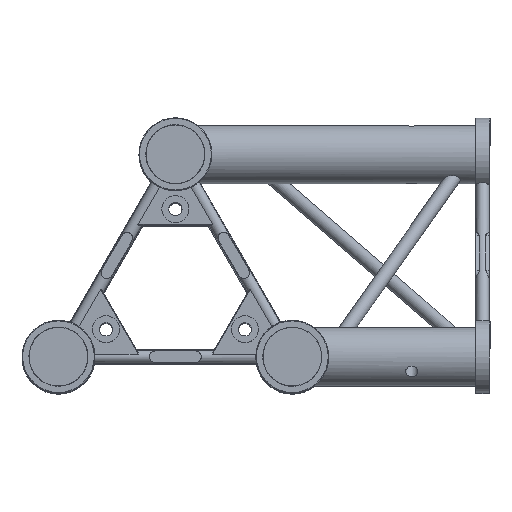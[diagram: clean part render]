
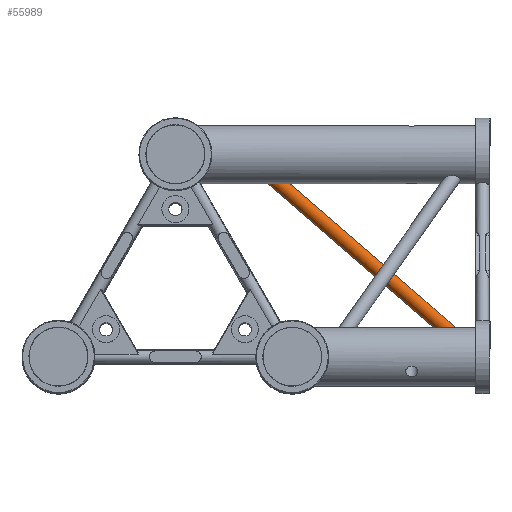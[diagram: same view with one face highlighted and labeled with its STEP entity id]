
A CAD part, top view. The second image highlights one B-rep face of the part: STEP entity #55989.
In plain terms, the highlighted cylindrical face has radius 6.35 mm (diameter 12.7 mm), a full revolution.
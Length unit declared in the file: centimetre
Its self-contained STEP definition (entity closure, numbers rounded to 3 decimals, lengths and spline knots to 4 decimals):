
#1488=CYLINDRICAL_SURFACE('',#57865,0.635);
#1922=FACE_BOUND('',#11211,.T.);
#4941=B_SPLINE_CURVE_WITH_KNOTS('',3,(#103762,#103763,#103764,#103765,#103766,
#103767,#103768,#103769,#103770,#103771,#103772,#103773,#103774,#103775,
#103776,#103777,#103778,#103779,#103780,#103781,#103782,#103783,#103784,
#103785,#103786,#103787,#103788,#103789,#103790,#103791,#103792,#103793,
#103794,#103795,#103796,#103797,#103798,#103799),.UNSPECIFIED.,.T.,.F.,
(4,2,2,2,2,2,2,2,2,2,2,2,2,2,2,2,2,2,4),(0.,0.3721,0.7441,
0.9861,1.107,1.228,1.3489,1.4699,
1.7118,2.0839,2.4559,2.7599,3.0639,
3.3153,3.5666,3.8179,4.0693,4.3733,
4.6773),.UNSPECIFIED.);
#4942=B_SPLINE_CURVE_WITH_KNOTS('',3,(#103801,#103802,#103803,#103804,#103805,
#103806,#103807,#103808,#103809,#103810,#103811,#103812,#103813,#103814,
#103815,#103816,#103817,#103818,#103819,#103820,#103821,#103822,#103823,
#103824,#103825,#103826,#103827,#103828,#103829,#103830,#103831,#103832,
#103833,#103834,#103835,#103836,#103837,#103838),.UNSPECIFIED.,.T.,.F.,
(4,2,2,2,2,2,2,2,2,2,2,2,2,2,2,2,2,2,4),(0.,0.3375,0.6751,
0.9531,1.0921,1.2311,1.3701,1.5091,
1.7871,2.1246,2.4622,2.7839,3.1056,
3.3392,3.5728,3.8064,4.04,4.3618,
4.6835),.UNSPECIFIED.);
#7874=FACE_OUTER_BOUND('',#11210,.T.);
#11210=EDGE_LOOP('',(#48631));
#11211=EDGE_LOOP('',(#48632));
#25685=VERTEX_POINT('',#103761);
#25686=VERTEX_POINT('',#103800);
#33350=EDGE_CURVE('',#25685,#25685,#4941,.T.);
#33351=EDGE_CURVE('',#25686,#25686,#4942,.T.);
#48631=ORIENTED_EDGE('',*,*,#33350,.F.);
#48632=ORIENTED_EDGE('',*,*,#33351,.F.);
#55989=ADVANCED_FACE('',(#7874,#1922),#1488,.T.);
#57865=AXIS2_PLACEMENT_3D('',#103760,#66242,#66243);
#66242=DIRECTION('center_axis',(-0.707,0.612,0.354));
#66243=DIRECTION('ref_axis',(-0.707,-0.612,-0.354));
#103760=CARTESIAN_POINT('Origin',(24.291,-15.7695,-36.4145));
#103761=CARTESIAN_POINT('',(7.7239,-2.1997,-28.58));
#103762=CARTESIAN_POINT('Ctrl Pts',(8.5413,-2.4474,
-27.9897));
#103763=CARTESIAN_POINT('Ctrl Pts',(8.6653,-2.4474,-27.9897));
#103764=CARTESIAN_POINT('Ctrl Pts',(8.7992,-2.4424,
-28.0085));
#103765=CARTESIAN_POINT('Ctrl Pts',(9.0539,-2.4197,
-28.0833));
#103766=CARTESIAN_POINT('Ctrl Pts',(9.1749,-2.4021,-28.1389));
#103767=CARTESIAN_POINT('Ctrl Pts',(9.339,-2.3588,
-28.2533));
#103768=CARTESIAN_POINT('Ctrl Pts',(9.4024,-2.3358,
-28.3103));
#103769=CARTESIAN_POINT('Ctrl Pts',(9.4705,-2.2914,
-28.4066));
#103770=CARTESIAN_POINT('Ctrl Pts',(9.4887,-2.2749,
-28.4404));
#103771=CARTESIAN_POINT('Ctrl Pts',(9.5135,-2.2392,
-28.5097));
#103772=CARTESIAN_POINT('Ctrl Pts',(9.52,-2.2199,
-28.5451));
#103773=CARTESIAN_POINT('Ctrl Pts',(9.52,-2.1795,
-28.6149));
#103774=CARTESIAN_POINT('Ctrl Pts',(9.5135,-2.1586,
-28.6493));
#103775=CARTESIAN_POINT('Ctrl Pts',(9.4887,-2.1165,
-28.7149));
#103776=CARTESIAN_POINT('Ctrl Pts',(9.4705,-2.0953,
-28.7461));
#103777=CARTESIAN_POINT('Ctrl Pts',(9.4024,-2.0342,
-28.8327));
#103778=CARTESIAN_POINT('Ctrl Pts',(9.339,-1.9963,
-28.8812));
#103779=CARTESIAN_POINT('Ctrl Pts',(9.1749,-1.9189,-28.9758));
#103780=CARTESIAN_POINT('Ctrl Pts',(9.0539,-1.8796,
-29.0189));
#103781=CARTESIAN_POINT('Ctrl Pts',(8.7992,-1.8261,
-29.0759));
#103782=CARTESIAN_POINT('Ctrl Pts',(8.6653,-1.8124,-29.0896));
#103783=CARTESIAN_POINT('Ctrl Pts',(8.44,-1.8124,
-29.0896));
#103784=CARTESIAN_POINT('Ctrl Pts',(8.3298,-1.8217,-29.0803));
#103785=CARTESIAN_POINT('Ctrl Pts',(8.1224,-1.865,
-29.0347));
#103786=CARTESIAN_POINT('Ctrl Pts',(8.0252,-1.899,
-28.998));
#103787=CARTESIAN_POINT('Ctrl Pts',(7.8823,-1.9749,-28.9082));
#103788=CARTESIAN_POINT('Ctrl Pts',(7.8235,-2.0185,
-28.8539));
#103789=CARTESIAN_POINT('Ctrl Pts',(7.7444,-2.11,
-28.7262));
#103790=CARTESIAN_POINT('Ctrl Pts',(7.7239,-2.1578,
-28.6526));
#103791=CARTESIAN_POINT('Ctrl Pts',(7.7239,-2.2416,
-28.5074));
#103792=CARTESIAN_POINT('Ctrl Pts',(7.7444,-2.2814,
-28.4293));
#103793=CARTESIAN_POINT('Ctrl Pts',(7.8235,-2.3463,
-28.2861));
#103794=CARTESIAN_POINT('Ctrl Pts',(7.8823,-2.3715,-28.2212));
#103795=CARTESIAN_POINT('Ctrl Pts',(8.0252,-2.4114,-28.1106));
#103796=CARTESIAN_POINT('Ctrl Pts',(8.1224,-2.4261,
-28.0628));
#103797=CARTESIAN_POINT('Ctrl Pts',(8.3298,-2.444,-28.0025));
#103798=CARTESIAN_POINT('Ctrl Pts',(8.44,-2.4474,
-27.9897));
#103799=CARTESIAN_POINT('Ctrl Pts',(8.5413,-2.4474,
-27.9897));
#103800=CARTESIAN_POINT('',(24.74,-15.3806,-36.19));
#103801=CARTESIAN_POINT('Ctrl Pts',(23.9226,-15.768,
-35.6804));
#103802=CARTESIAN_POINT('Ctrl Pts',(23.8101,-15.768,
-35.6804));
#103803=CARTESIAN_POINT('Ctrl Pts',(23.6883,-15.7566,
-35.6918));
#103804=CARTESIAN_POINT('Ctrl Pts',(23.4542,-15.7119,
-35.7391));
#103805=CARTESIAN_POINT('Ctrl Pts',(23.3419,-15.6788,
-35.7749));
#103806=CARTESIAN_POINT('Ctrl Pts',(23.1688,-15.6076,-35.8592));
#103807=CARTESIAN_POINT('Ctrl Pts',(23.0913,-15.5665,
-35.9101));
#103808=CARTESIAN_POINT('Ctrl Pts',(23.0069,-15.4988,-36.0039));
#103809=CARTESIAN_POINT('Ctrl Pts',(22.9839,-15.4751,
-36.0381));
#103810=CARTESIAN_POINT('Ctrl Pts',(22.9525,-15.4277,
-36.1111));
#103811=CARTESIAN_POINT('Ctrl Pts',(22.9439,-15.4038,
-36.1499));
#103812=CARTESIAN_POINT('Ctrl Pts',(22.9439,-15.3574,
-36.2301));
#103813=CARTESIAN_POINT('Ctrl Pts',(22.9525,-15.3358,
-36.2702));
#103814=CARTESIAN_POINT('Ctrl Pts',(22.9839,-15.2963,-36.3478));
#103815=CARTESIAN_POINT('Ctrl Pts',(23.0069,-15.2785,-36.3854));
#103816=CARTESIAN_POINT('Ctrl Pts',(23.0913,-15.2312,
-36.491));
#103817=CARTESIAN_POINT('Ctrl Pts',(23.1688,-15.2076,
-36.552));
#103818=CARTESIAN_POINT('Ctrl Pts',(23.3419,-15.1702,-36.6558));
#103819=CARTESIAN_POINT('Ctrl Pts',(23.4542,-15.1557,
-36.7024));
#103820=CARTESIAN_POINT('Ctrl Pts',(23.6883,-15.1371,
-36.7647));
#103821=CARTESIAN_POINT('Ctrl Pts',(23.8101,-15.133,
-36.7803));
#103822=CARTESIAN_POINT('Ctrl Pts',(24.0299,-15.133,
-36.7803));
#103823=CARTESIAN_POINT('Ctrl Pts',(24.1463,-15.1367,
-36.766));
#103824=CARTESIAN_POINT('Ctrl Pts',(24.3635,-15.1569,
-36.6985));
#103825=CARTESIAN_POINT('Ctrl Pts',(24.4643,-15.1735,
-36.6451));
#103826=CARTESIAN_POINT('Ctrl Pts',(24.601,-15.2169,
-36.5281));
#103827=CARTESIAN_POINT('Ctrl Pts',(24.6528,-15.2418,
-36.4658));
#103828=CARTESIAN_POINT('Ctrl Pts',(24.7223,-15.3041,
-36.3305));
#103829=CARTESIAN_POINT('Ctrl Pts',(24.74,-15.3417,
-36.2574));
#103830=CARTESIAN_POINT('Ctrl Pts',(24.74,-15.4195,
-36.1226));
#103831=CARTESIAN_POINT('Ctrl Pts',(24.7223,-15.464,
-36.0535));
#103832=CARTESIAN_POINT('Ctrl Pts',(24.6528,-15.5501,
-35.9318));
#103833=CARTESIAN_POINT('Ctrl Pts',(24.601,-15.5915,
-35.8792));
#103834=CARTESIAN_POINT('Ctrl Pts',(24.4643,-15.6712,-35.7831));
#103835=CARTESIAN_POINT('Ctrl Pts',(24.3635,-15.7091,
-35.742));
#103836=CARTESIAN_POINT('Ctrl Pts',(24.1463,-15.7575,
-35.6908));
#103837=CARTESIAN_POINT('Ctrl Pts',(24.0299,-15.768,
-35.6804));
#103838=CARTESIAN_POINT('Ctrl Pts',(23.9226,-15.768,
-35.6804));
